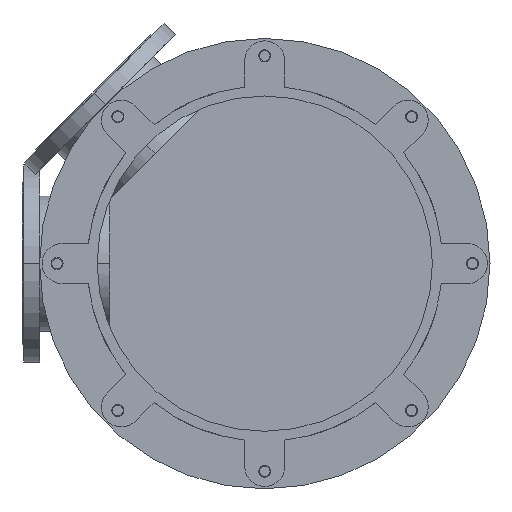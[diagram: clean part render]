
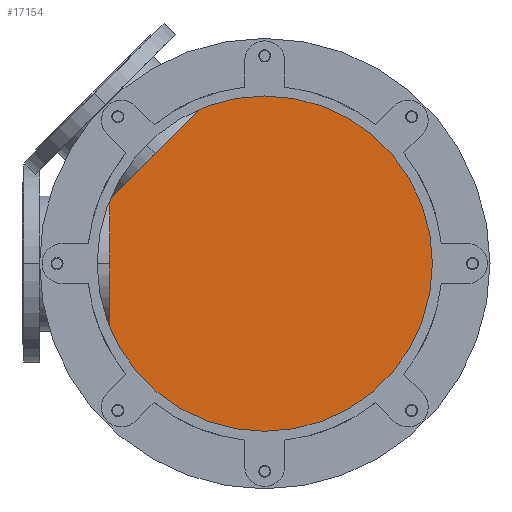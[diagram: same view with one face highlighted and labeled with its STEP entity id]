
A CAD part, front view. The second image highlights one B-rep face of the part: STEP entity #17154.
In plain terms, the highlighted planar face has unit normal (0, -1, 0).
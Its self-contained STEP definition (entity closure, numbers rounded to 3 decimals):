
#5068=CARTESIAN_POINT('',(0.,951.,0.));
#5069=DIRECTION('',(0.,-1.,0.));
#5070=DIRECTION('',(0.,0.,1.));
#5071=AXIS2_PLACEMENT_3D('',#5068,#5069,#5070);
#5252=CARTESIAN_POINT('',(0.,951.,0.));
#5253=DIRECTION('',(0.,-1.,0.));
#5254=DIRECTION('',(0.,0.,-1.));
#5255=AXIS2_PLACEMENT_3D('',#5252,#5253,#5254);
#9251=CARTESIAN_POINT('',(0.,951.,350.));
#9252=CARTESIAN_POINT('',(0.,951.,-350.));
#9253=VERTEX_POINT('',#9251);
#9254=VERTEX_POINT('',#9252);
#17144=CARTESIAN_POINT('',(0.,951.,0.));
#17145=DIRECTION('',(0.,1.,0.));
#17146=DIRECTION('',(0.,0.,-1.));
#17147=AXIS2_PLACEMENT_3D('',#17144,#17145,#17146);
#17148=PLANE('',#17147);
#17149=ORIENTED_EDGE('',*,*,#17122,.F.);
#17151=ORIENTED_EDGE('',*,*,#17150,.F.);
#17152=EDGE_LOOP('',(#17149,#17151));
#17153=FACE_OUTER_BOUND('',#17152,.F.);
#17154=ADVANCED_FACE('',(#17153),#17148,.F.);
#5072=CIRCLE('',#5071,350.);
#5256=CIRCLE('',#5255,350.);
#17122=EDGE_CURVE('',#9253,#9254,#5072,.T.);
#17150=EDGE_CURVE('',#9254,#9253,#5256,.T.);
